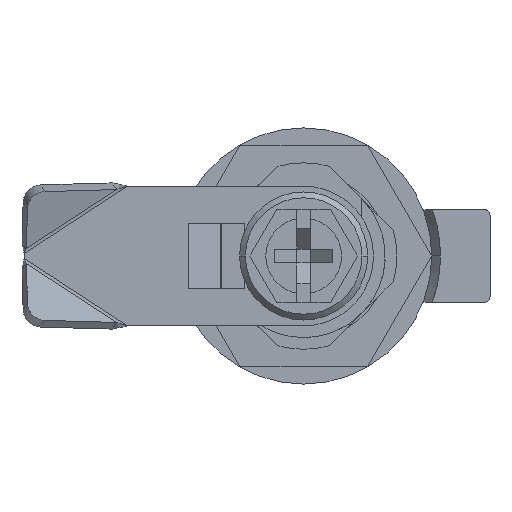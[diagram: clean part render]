
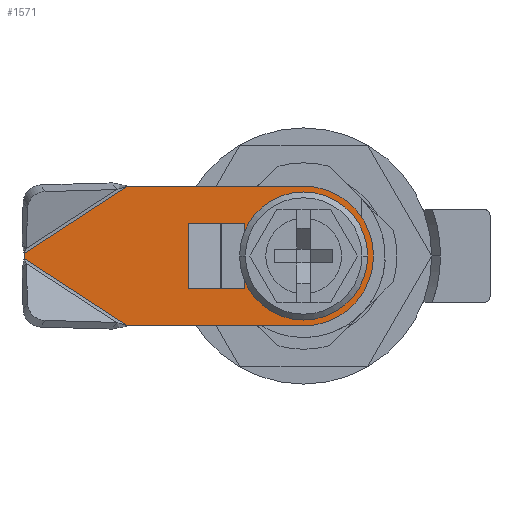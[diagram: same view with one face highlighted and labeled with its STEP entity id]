
A CAD part, front view. The second image highlights one B-rep face of the part: STEP entity #1571.
In plain terms, the highlighted planar face has unit normal (0, -1, 0) as drawn and (0, 0, -1) by its records, which use the part's own axes.
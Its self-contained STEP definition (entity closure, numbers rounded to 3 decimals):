
#3 = VERTEX_POINT ( 'NONE', #4792 ) ;
#40 = FACE_BOUND ( 'NONE', #5380, .T. ) ;
#161 = EDGE_CURVE ( 'NONE', #2035, #1356, #2141, .T. ) ;
#287 = DIRECTION ( 'NONE',  ( -1., 0., 0. ) ) ;
#338 = DIRECTION ( 'NONE',  ( -0.839, -0.545, 0. ) ) ;
#458 = DIRECTION ( 'NONE',  ( 0., -1., 0. ) ) ;
#469 = VERTEX_POINT ( 'NONE', #5844 ) ;
#543 = EDGE_CURVE ( 'NONE', #5849, #5372, #3668, .T. ) ;
#567 = ORIENTED_EDGE ( 'NONE', *, *, #161, .F. ) ;
#616 = VECTOR ( 'NONE', #3165, 1000. ) ;
#739 = LINE ( 'NONE', #2672, #5211 ) ;
#858 = VECTOR ( 'NONE', #458, 1000. ) ;
#869 = EDGE_CURVE ( 'NONE', #1356, #2386, #1526, .T. ) ;
#921 = CARTESIAN_POINT ( 'NONE',  ( 0., 0., -2. ) ) ;
#948 = LINE ( 'NONE', #4262, #5727 ) ;
#1003 = DIRECTION ( 'NONE',  ( 1., 0., 0. ) ) ;
#1025 = CARTESIAN_POINT ( 'NONE',  ( -15.114, 6., -2. ) ) ;
#1081 = VERTEX_POINT ( 'NONE', #5982 ) ;
#1106 = CARTESIAN_POINT ( 'NONE',  ( 3.1, -3.1, -2. ) ) ;
#1212 = AXIS2_PLACEMENT_3D ( 'NONE', #921, #4541, #2495 ) ;
#1272 = VERTEX_POINT ( 'NONE', #2082 ) ;
#1326 = ORIENTED_EDGE ( 'NONE', *, *, #2589, .F. ) ;
#1347 = EDGE_CURVE ( 'NONE', #1272, #3, #2685, .T. ) ;
#1356 = VERTEX_POINT ( 'NONE', #5534 ) ;
#1449 = DIRECTION ( 'NONE',  ( 0., -1., 0. ) ) ;
#1526 = CIRCLE ( 'NONE', #1212, 6. ) ;
#1571 = ADVANCED_FACE ( 'NONE', ( #3021, #40, #2074 ), #4399, .F. ) ;
#1591 = CARTESIAN_POINT ( 'NONE',  ( 3.1, 3.1, -2. ) ) ;
#1699 = VECTOR ( 'NONE', #2773, 1000. ) ;
#1793 = CARTESIAN_POINT ( 'NONE',  ( -3.1, -3.1, -2. ) ) ;
#1844 = CARTESIAN_POINT ( 'NONE',  ( 0., 6., -2. ) ) ;
#1848 = VERTEX_POINT ( 'NONE', #5738 ) ;
#1919 = VECTOR ( 'NONE', #4847, 1000. ) ;
#1938 = VECTOR ( 'NONE', #338, 1000. ) ;
#2035 = VERTEX_POINT ( 'NONE', #2503 ) ;
#2074 = FACE_OUTER_BOUND ( 'NONE', #5551, .T. ) ;
#2082 = CARTESIAN_POINT ( 'NONE',  ( -5.1, -2.8, -2. ) ) ;
#2141 = CIRCLE ( 'NONE', #4345, 6. ) ;
#2228 = LINE ( 'NONE', #3690, #1919 ) ;
#2259 = EDGE_CURVE ( 'NONE', #2386, #4885, #2763, .T. ) ;
#2349 = ORIENTED_EDGE ( 'NONE', *, *, #6066, .F. ) ;
#2386 = VERTEX_POINT ( 'NONE', #3977 ) ;
#2450 = ORIENTED_EDGE ( 'NONE', *, *, #5755, .T. ) ;
#2495 = DIRECTION ( 'NONE',  ( 1., 0., 0. ) ) ;
#2503 = CARTESIAN_POINT ( 'NONE',  ( 0., -6., -2. ) ) ;
#2564 = ORIENTED_EDGE ( 'NONE', *, *, #3421, .F. ) ;
#2589 = EDGE_CURVE ( 'NONE', #2858, #3130, #2605, .T. ) ;
#2605 = LINE ( 'NONE', #1591, #5925 ) ;
#2672 = CARTESIAN_POINT ( 'NONE',  ( 3.1, -3.1, -2. ) ) ;
#2685 = LINE ( 'NONE', #4097, #3558 ) ;
#2763 = LINE ( 'NONE', #1844, #4235 ) ;
#2773 = DIRECTION ( 'NONE',  ( 0., 1., 0. ) ) ;
#2858 = VERTEX_POINT ( 'NONE', #2889 ) ;
#2874 = LINE ( 'NONE', #3361, #858 ) ;
#2889 = CARTESIAN_POINT ( 'NONE',  ( -3.1, 3.1, -2. ) ) ;
#2912 = VERTEX_POINT ( 'NONE', #1106 ) ;
#3021 = FACE_BOUND ( 'NONE', #5758, .T. ) ;
#3036 = EDGE_CURVE ( 'NONE', #469, #2035, #3685, .T. ) ;
#3080 = EDGE_CURVE ( 'NONE', #5372, #1272, #948, .T. ) ;
#3130 = VERTEX_POINT ( 'NONE', #3948 ) ;
#3165 = DIRECTION ( 'NONE',  ( 1., 0., 0. ) ) ;
#3169 = DIRECTION ( 'NONE',  ( -1., 0., 0. ) ) ;
#3261 = ORIENTED_EDGE ( 'NONE', *, *, #3080, .F. ) ;
#3361 = CARTESIAN_POINT ( 'NONE',  ( -24., 4.5, -2. ) ) ;
#3417 = CARTESIAN_POINT ( 'NONE',  ( 0., 0., -2. ) ) ;
#3421 = EDGE_CURVE ( 'NONE', #4885, #1081, #5204, .T. ) ;
#3422 = CARTESIAN_POINT ( 'NONE',  ( 3.1, -3.1, -2. ) ) ;
#3558 = VECTOR ( 'NONE', #3169, 1000. ) ;
#3591 = CARTESIAN_POINT ( 'NONE',  ( -9.9, 2.8, -2. ) ) ;
#3668 = LINE ( 'NONE', #4990, #616 ) ;
#3685 = LINE ( 'NONE', #5545, #4767 ) ;
#3690 = CARTESIAN_POINT ( 'NONE',  ( -9.9, 2.8, -2. ) ) ;
#3716 = CARTESIAN_POINT ( 'NONE',  ( -3.1, -3.1, -2. ) ) ;
#3878 = ORIENTED_EDGE ( 'NONE', *, *, #1347, .F. ) ;
#3890 = LINE ( 'NONE', #3422, #4038 ) ;
#3948 = CARTESIAN_POINT ( 'NONE',  ( 3.1, 3.1, -2. ) ) ;
#3977 = CARTESIAN_POINT ( 'NONE',  ( 0., 6., -2. ) ) ;
#4038 = VECTOR ( 'NONE', #5757, 1000. ) ;
#4097 = CARTESIAN_POINT ( 'NONE',  ( -5.1, -2.8, -2. ) ) ;
#4235 = VECTOR ( 'NONE', #4236, 1000. ) ;
#4236 = DIRECTION ( 'NONE',  ( -1., 0., 0. ) ) ;
#4262 = CARTESIAN_POINT ( 'NONE',  ( -5.1, 2.8, -2. ) ) ;
#4330 = DIRECTION ( 'NONE',  ( -0.839, 0.545, 0. ) ) ;
#4345 = AXIS2_PLACEMENT_3D ( 'NONE', #3417, #4440, #1003 ) ;
#4399 = PLANE ( 'NONE',  #5135 ) ;
#4421 = EDGE_CURVE ( 'NONE', #1081, #1848, #2874, .T. ) ;
#4424 = ORIENTED_EDGE ( 'NONE', *, *, #6104, .F. ) ;
#4440 = DIRECTION ( 'NONE',  ( 0., 0., 1. ) ) ;
#4511 = DIRECTION ( 'NONE',  ( 1., 0., 0. ) ) ;
#4541 = DIRECTION ( 'NONE',  ( 0., 0., 1. ) ) ;
#4633 = VECTOR ( 'NONE', #4330, 1000. ) ;
#4639 = ORIENTED_EDGE ( 'NONE', *, *, #2259, .F. ) ;
#4765 = EDGE_CURVE ( 'NONE', #5318, #2858, #5114, .T. ) ;
#4767 = VECTOR ( 'NONE', #4511, 1000. ) ;
#4792 = CARTESIAN_POINT ( 'NONE',  ( -9.9, -2.8, -2. ) ) ;
#4847 = DIRECTION ( 'NONE',  ( 0., 1., 0. ) ) ;
#4885 = VERTEX_POINT ( 'NONE', #1025 ) ;
#4890 = DIRECTION ( 'NONE',  ( 1., 0., 0. ) ) ;
#4990 = CARTESIAN_POINT ( 'NONE',  ( -5.1, 2.8, -2. ) ) ;
#5114 = LINE ( 'NONE', #1793, #1699 ) ;
#5135 = AXIS2_PLACEMENT_3D ( 'NONE', #5403, #5435, #4890 ) ;
#5152 = CARTESIAN_POINT ( 'NONE',  ( -7.224, 11.124, -2. ) ) ;
#5194 = LINE ( 'NONE', #5224, #4633 ) ;
#5204 = LINE ( 'NONE', #5152, #1938 ) ;
#5211 = VECTOR ( 'NONE', #287, 1000. ) ;
#5224 = CARTESIAN_POINT ( 'NONE',  ( -7.224, -11.124, -2. ) ) ;
#5318 = VERTEX_POINT ( 'NONE', #3716 ) ;
#5366 = DIRECTION ( 'NONE',  ( 1., 0., 0. ) ) ;
#5372 = VERTEX_POINT ( 'NONE', #5978 ) ;
#5380 = EDGE_LOOP ( 'NONE', ( #5968, #6144, #3878, #3261 ) ) ;
#5387 = ORIENTED_EDGE ( 'NONE', *, *, #4421, .F. ) ;
#5403 = CARTESIAN_POINT ( 'NONE',  ( 0., 0., -2. ) ) ;
#5435 = DIRECTION ( 'NONE',  ( 0., 0., 1. ) ) ;
#5534 = CARTESIAN_POINT ( 'NONE',  ( 6., 0., -2. ) ) ;
#5545 = CARTESIAN_POINT ( 'NONE',  ( -22.5, -6., -2. ) ) ;
#5551 = EDGE_LOOP ( 'NONE', ( #6048, #2450, #5387, #2564, #4639, #5990, #567 ) ) ;
#5727 = VECTOR ( 'NONE', #1449, 1000. ) ;
#5732 = ORIENTED_EDGE ( 'NONE', *, *, #4765, .F. ) ;
#5738 = CARTESIAN_POINT ( 'NONE',  ( -24., -0.229, -2. ) ) ;
#5755 = EDGE_CURVE ( 'NONE', #469, #1848, #5194, .T. ) ;
#5757 = DIRECTION ( 'NONE',  ( 0., -1., 0. ) ) ;
#5758 = EDGE_LOOP ( 'NONE', ( #1326, #5732, #2349, #4424 ) ) ;
#5844 = CARTESIAN_POINT ( 'NONE',  ( -15.114, -6., -2. ) ) ;
#5849 = VERTEX_POINT ( 'NONE', #3591 ) ;
#5925 = VECTOR ( 'NONE', #5366, 1000. ) ;
#5968 = ORIENTED_EDGE ( 'NONE', *, *, #543, .F. ) ;
#5978 = CARTESIAN_POINT ( 'NONE',  ( -5.1, 2.8, -2. ) ) ;
#5982 = CARTESIAN_POINT ( 'NONE',  ( -24., 0.229, -2. ) ) ;
#5990 = ORIENTED_EDGE ( 'NONE', *, *, #869, .F. ) ;
#6048 = ORIENTED_EDGE ( 'NONE', *, *, #3036, .F. ) ;
#6066 = EDGE_CURVE ( 'NONE', #2912, #5318, #739, .T. ) ;
#6078 = EDGE_CURVE ( 'NONE', #3, #5849, #2228, .T. ) ;
#6104 = EDGE_CURVE ( 'NONE', #3130, #2912, #3890, .T. ) ;
#6144 = ORIENTED_EDGE ( 'NONE', *, *, #6078, .F. ) ;
